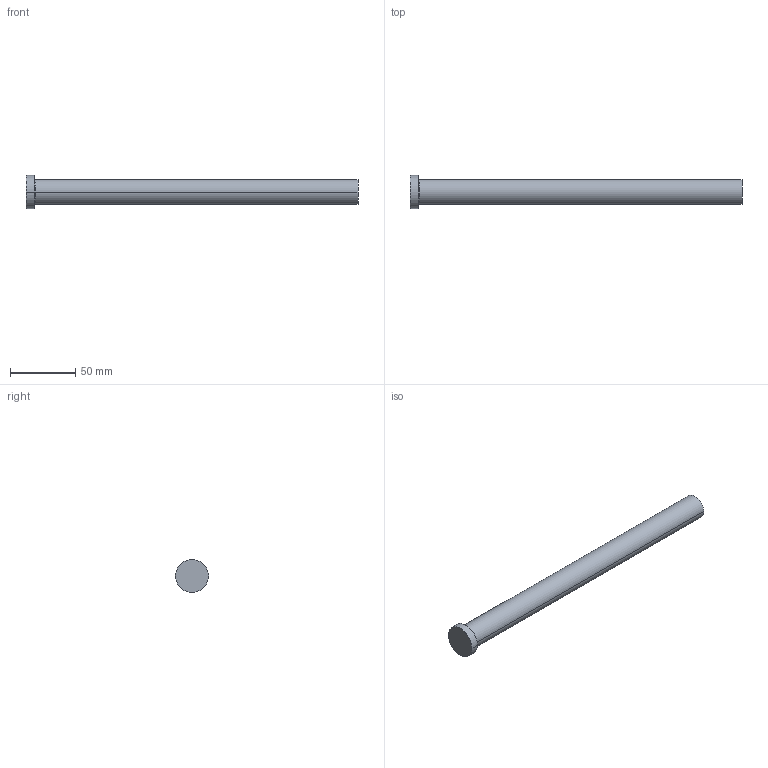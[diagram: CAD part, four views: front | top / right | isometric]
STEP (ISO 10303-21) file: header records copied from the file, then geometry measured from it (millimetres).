
FILE_DESCRIPTION (( 'STEP AP214' ), '1' );
FILE_NAME ('P41-10.STEP', '2020-03-12T12:17:43', ( '' ), ( '' ), 'SwSTEP 2.0', 'SolidWorks 2018', '' );
FILE_SCHEMA (( 'AUTOMOTIVE_DESIGN' ));
Length unit declared in the file: inch
Products named in the file (1): P41-10
Bounding box: 254 x 25.4 x 25.4 mm (x, y, z)
Volume: 73716.2 mm3; surface area: 16302.6 mm2
Topology: 1 solids, 1 shells, 13 faces, 24 edges, 14 vertices
Faces by surface type: cone 4, cylinder 4, plane 3, torus 2
Entity records: 366 total; most frequent: DIRECTION 68, CARTESIAN_POINT 52, ORIENTED_EDGE 48, AXIS2_PLACEMENT_3D 30, EDGE_CURVE 24, CIRCLE 16, VERTEX_POINT 14, EDGE_LOOP 14
